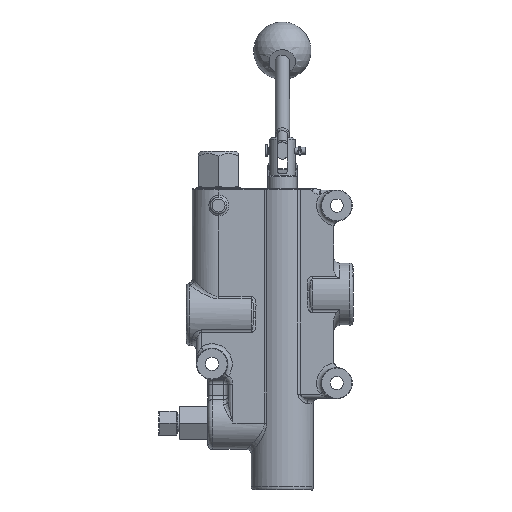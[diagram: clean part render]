
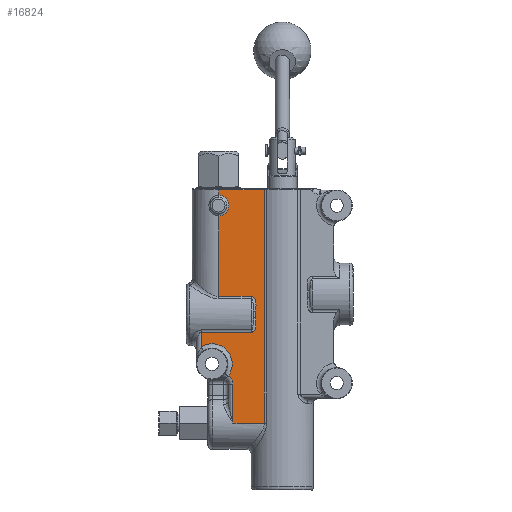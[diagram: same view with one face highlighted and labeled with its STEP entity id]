
A CAD part, front view. The second image highlights one B-rep face of the part: STEP entity #16824.
In plain terms, the highlighted planar face has unit normal (0, -1, 0).
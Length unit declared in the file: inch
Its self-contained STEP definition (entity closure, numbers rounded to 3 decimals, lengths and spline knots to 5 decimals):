
#15792=CARTESIAN_POINT('',(-0.46637,-0.6875,-6.195));
#15793=VERTEX_POINT('',#15792);
#15811=CARTESIAN_POINT('',(-0.46637,-0.6875,-0.12));
#15812=VERTEX_POINT('',#15811);
#15820=CARTESIAN_POINT('',(-0.46637,-0.6875,-0.12));
#15821=DIRECTION('',(0.0,0.0,-1.0));
#15822=VECTOR('',#15821,6.075);
#15823=LINE('',#15820,#15822);
#15824=EDGE_CURVE('',#15812,#15793,#15823,.T.);
#16578=CARTESIAN_POINT('',(-1.285,-0.6875,-6.195));
#16579=VERTEX_POINT('',#16578);
#16580=CARTESIAN_POINT('',(-0.46637,-0.6875,-6.195));
#16581=DIRECTION('',(-1.0,0.0,0.0));
#16582=VECTOR('',#16581,0.81863);
#16583=LINE('',#16580,#16582);
#16584=EDGE_CURVE('',#15793,#16579,#16583,.T.);
#16683=CARTESIAN_POINT('',(-0.21216,-0.6875,-2.89382));
#16684=DIRECTION('',(0.0,1.0,0.0));
#16685=DIRECTION('',(0.0,0.0,1.0));
#16686=AXIS2_PLACEMENT_3D('',#16683,#16684,#16685);
#16687=PLANE('',#16686);
#16688=ORIENTED_EDGE('',*,*,#15824,.F.);
#16689=CARTESIAN_POINT('',(-1.66,-0.6875,-0.12));
#16690=VERTEX_POINT('',#16689);
#16691=CARTESIAN_POINT('',(-1.66,-0.6875,-0.12));
#16692=DIRECTION('',(1.0,0.0,0.0));
#16693=VECTOR('',#16692,1.19363);
#16694=LINE('',#16691,#16693);
#16695=EDGE_CURVE('',#16690,#15812,#16694,.T.);
#16696=ORIENTED_EDGE('',*,*,#16695,.F.);
#16697=CARTESIAN_POINT('',(-1.66,-0.6875,-0.2615));
#16698=VERTEX_POINT('',#16697);
#16699=CARTESIAN_POINT('',(-1.66,-0.6875,-0.2615));
#16700=DIRECTION('',(0.0,0.0,1.0));
#16701=VECTOR('',#16700,0.1415);
#16702=LINE('',#16699,#16701);
#16703=EDGE_CURVE('',#16698,#16690,#16702,.T.);
#16704=ORIENTED_EDGE('',*,*,#16703,.F.);
#16705=CARTESIAN_POINT('',(-1.66,-0.6875,-0.7985));
#16706=VERTEX_POINT('',#16705);
#16707=CARTESIAN_POINT('',(-1.66,-0.6875,-0.53));
#16708=DIRECTION('',(0.0,-1.0,0.0));
#16709=DIRECTION('',(1.0,0.0,0.0));
#16710=AXIS2_PLACEMENT_3D('',#16707,#16708,#16709);
#16711=CIRCLE('',#16710,0.2685);
#16712=EDGE_CURVE('',#16706,#16698,#16711,.T.);
#16713=ORIENTED_EDGE('',*,*,#16712,.F.);
#16714=CARTESIAN_POINT('',(-1.66,-0.6875,-2.89863));
#16715=VERTEX_POINT('',#16714);
#16716=CARTESIAN_POINT('',(-1.66,-0.6875,-2.89863));
#16717=DIRECTION('',(0.0,0.0,1.0));
#16718=VECTOR('',#16717,2.10013);
#16719=LINE('',#16716,#16718);
#16720=EDGE_CURVE('',#16715,#16706,#16719,.T.);
#16721=ORIENTED_EDGE('',*,*,#16720,.F.);
#16722=CARTESIAN_POINT('',(-0.81,-0.6875,-2.89863));
#16723=VERTEX_POINT('',#16722);
#16724=CARTESIAN_POINT('',(-0.81,-0.6875,-2.89863));
#16725=DIRECTION('',(-1.0,0.0,0.0));
#16726=VECTOR('',#16725,0.85);
#16727=LINE('',#16724,#16726);
#16728=EDGE_CURVE('',#16723,#16715,#16727,.T.);
#16729=ORIENTED_EDGE('',*,*,#16728,.F.);
#16730=CARTESIAN_POINT('',(-0.69,-0.6875,-3.2784));
#16731=VERTEX_POINT('',#16730);
#16732=CARTESIAN_POINT('',(-0.69,-0.6875,-3.2784));
#16733=CARTESIAN_POINT('',(-0.69,-0.6875,-3.25922));
#16734=CARTESIAN_POINT('',(-0.68757,-0.6875,-3.21636));
#16735=CARTESIAN_POINT('',(-0.68276,-0.6875,-3.14451));
#16736=CARTESIAN_POINT('',(-0.68391,-0.6875,-3.08308));
#16737=CARTESIAN_POINT('',(-0.69058,-0.6875,-3.03636));
#16738=CARTESIAN_POINT('',(-0.69879,-0.6875,-3.0035));
#16739=CARTESIAN_POINT('',(-0.71032,-0.6875,-2.97384));
#16740=CARTESIAN_POINT('',(-0.72489,-0.6875,-2.94837));
#16741=CARTESIAN_POINT('',(-0.74194,-0.6875,-2.92785));
#16742=CARTESIAN_POINT('',(-0.76104,-0.6875,-2.91243));
#16743=CARTESIAN_POINT('',(-0.78285,-0.6875,-2.90182));
#16744=CARTESIAN_POINT('',(-0.80041,-0.6875,-2.89863));
#16745=CARTESIAN_POINT('',(-0.81,-0.6875,-2.89863));
#16746=B_SPLINE_CURVE_WITH_KNOTS('',3,(#16732,#16733,#16734,#16735,#16736,#16737,#16738,#16739,#16740,#16741,#16742,#16743,#16744,#16745),.UNSPECIFIED.,.F.,.U.,(4,1,1,1,1,1,1,1,1,1,1,4),(-1.,-0.85714,-0.71429,-0.57143,-0.5,-0.42857,-0.35714,-0.28571,-0.21429,-0.14286,-0.07143,0.),.UNSPECIFIED.);
#16747=EDGE_CURVE('',#16731,#16723,#16746,.T.);
#16748=ORIENTED_EDGE('',*,*,#16747,.F.);
#16749=CARTESIAN_POINT('',(-0.69,-0.6875,-3.4516));
#16750=VERTEX_POINT('',#16749);
#16751=CARTESIAN_POINT('',(-0.69,-0.6875,-3.4516));
#16752=DIRECTION('',(0.0,0.0,1.0));
#16753=VECTOR('',#16752,0.17321);
#16754=LINE('',#16751,#16753);
#16755=EDGE_CURVE('',#16750,#16731,#16754,.T.);
#16756=ORIENTED_EDGE('',*,*,#16755,.F.);
#16757=CARTESIAN_POINT('',(-0.81,-0.6875,-3.83137));
#16758=VERTEX_POINT('',#16757);
#16759=CARTESIAN_POINT('',(-0.81,-0.6875,-3.83137));
#16760=CARTESIAN_POINT('',(-0.80521,-0.6875,-3.83137));
#16761=CARTESIAN_POINT('',(-0.796,-0.6875,-3.83056));
#16762=CARTESIAN_POINT('',(-0.78341,-0.6875,-3.82746));
#16763=CARTESIAN_POINT('',(-0.77194,-0.6875,-3.82286));
#16764=CARTESIAN_POINT('',(-0.76136,-0.6875,-3.81696));
#16765=CARTESIAN_POINT('',(-0.74494,-0.6875,-3.80513));
#16766=CARTESIAN_POINT('',(-0.73028,-0.6875,-3.78909));
#16767=CARTESIAN_POINT('',(-0.71253,-0.6875,-3.76082));
#16768=CARTESIAN_POINT('',(-0.70376,-0.6875,-3.7404));
#16769=CARTESIAN_POINT('',(-0.69812,-0.6875,-3.72205));
#16770=CARTESIAN_POINT('',(-0.69658,-0.6875,-3.71674));
#16771=CARTESIAN_POINT('',(-0.69118,-0.6875,-3.69649));
#16772=CARTESIAN_POINT('',(-0.68401,-0.6875,-3.65306));
#16773=CARTESIAN_POINT('',(-0.68278,-0.6875,-3.58549));
#16774=CARTESIAN_POINT('',(-0.68676,-0.6875,-3.52561));
#16775=CARTESIAN_POINT('',(-0.68941,-0.6875,-3.4815));
#16776=CARTESIAN_POINT('',(-0.69,-0.6875,-3.46119));
#16777=CARTESIAN_POINT('',(-0.69,-0.6875,-3.4516));
#16778=B_SPLINE_CURVE_WITH_KNOTS('',3,(#16759,#16760,#16761,#16762,#16763,#16764,#16765,#16766,#16767,#16768,#16769,#16770,#16771,#16772,#16773,#16774,#16775,#16776,#16777),.UNSPECIFIED.,.F.,.U.,(4,1,1,1,1,1,1,1,1,1,1,1,1,1,1,1,4),(-1.0,-0.96429,-0.92857,-0.89286,-0.85714,-0.82143,-0.71429,-0.67857,-0.57143,-0.5625,-0.55357,-0.53571,-0.42857,-0.28571,-0.14286,-0.07143,0.),.UNSPECIFIED.);
#16779=EDGE_CURVE('',#16758,#16750,#16778,.T.);
#16780=ORIENTED_EDGE('',*,*,#16779,.F.);
#16781=CARTESIAN_POINT('',(-2.116,-0.6875,-3.83137));
#16782=VERTEX_POINT('',#16781);
#16783=CARTESIAN_POINT('',(-2.116,-0.6875,-3.83137));
#16784=DIRECTION('',(1.0,0.0,0.0));
#16785=VECTOR('',#16784,1.306);
#16786=LINE('',#16783,#16785);
#16787=EDGE_CURVE('',#16782,#16758,#16786,.T.);
#16788=ORIENTED_EDGE('',*,*,#16787,.F.);
#16789=CARTESIAN_POINT('',(-2.116,-0.6875,-4.21355));
#16790=VERTEX_POINT('',#16789);
#16791=CARTESIAN_POINT('',(-2.116,-0.6875,-4.21355));
#16792=DIRECTION('',(0.,0.0,1.0));
#16793=VECTOR('',#16792,0.38218);
#16794=LINE('',#16791,#16793);
#16795=EDGE_CURVE('',#16790,#16782,#16794,.T.);
#16796=ORIENTED_EDGE('',*,*,#16795,.F.);
#16797=CARTESIAN_POINT('',(-1.4093,-0.6875,-4.97073));
#16798=VERTEX_POINT('',#16797);
#16799=CARTESIAN_POINT('',(-1.83,-0.6875,-4.655));
#16800=DIRECTION('',(0.0,-1.0,0.0));
#16801=DIRECTION('',(0.707,0.0,0.707));
#16802=AXIS2_PLACEMENT_3D('',#16799,#16800,#16801);
#16803=CIRCLE('',#16802,0.526);
#16804=EDGE_CURVE('',#16798,#16790,#16803,.T.);
#16805=ORIENTED_EDGE('',*,*,#16804,.F.);
#16806=CARTESIAN_POINT('',(-1.285,-0.6875,-5.181));
#16807=VERTEX_POINT('',#16806);
#16808=CARTESIAN_POINT('',(-1.525,-0.6875,-5.181));
#16809=DIRECTION('',(0.0,-1.0,0.0));
#16810=DIRECTION('',(0.707,0.0,0.707));
#16811=AXIS2_PLACEMENT_3D('',#16808,#16809,#16810);
#16812=CIRCLE('',#16811,0.24);
#16813=EDGE_CURVE('',#16807,#16798,#16812,.T.);
#16814=ORIENTED_EDGE('',*,*,#16813,.F.);
#16815=CARTESIAN_POINT('',(-1.285,-0.6875,-6.195));
#16816=DIRECTION('',(0.0,0.0,1.0));
#16817=VECTOR('',#16816,1.014);
#16818=LINE('',#16815,#16817);
#16819=EDGE_CURVE('',#16579,#16807,#16818,.T.);
#16820=ORIENTED_EDGE('',*,*,#16819,.F.);
#16821=ORIENTED_EDGE('',*,*,#16584,.F.);
#16822=EDGE_LOOP('',(#16688,#16696,#16704,#16713,#16721,#16729,#16748,#16756,#16780,#16788,#16796,#16805,#16814,#16820,#16821));
#16823=FACE_OUTER_BOUND('',#16822,.T.);
#16824=ADVANCED_FACE('',(#16823),#16687,.F.);
